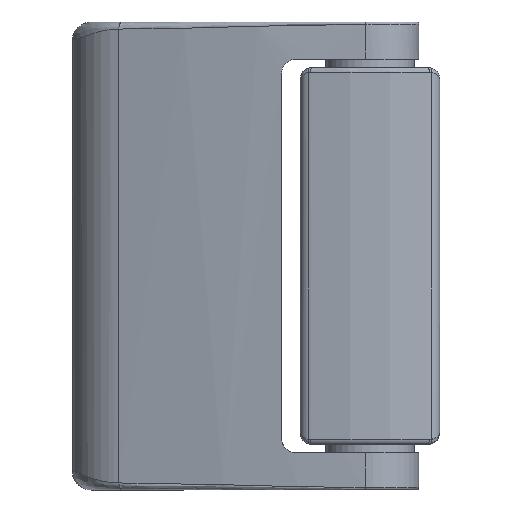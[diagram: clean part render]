
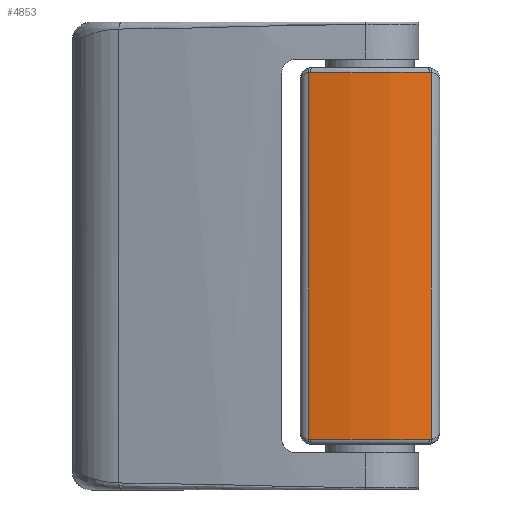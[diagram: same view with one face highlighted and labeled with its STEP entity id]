
A CAD part, top view. The second image highlights one B-rep face of the part: STEP entity #4853.
In plain terms, the highlighted cylindrical face has radius 50 mm (diameter 100 mm), a partial arc.
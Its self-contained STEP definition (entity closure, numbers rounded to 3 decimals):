
#4547=CARTESIAN_POINT('',(12.755,-39.5,20.846));
#4548=VERTEX_POINT('',#4547);
#4556=CARTESIAN_POINT('',(-12.755,-39.5,20.846));
#4557=VERTEX_POINT('',#4556);
#4558=CARTESIAN_POINT('',(0.0,-39.5,-27.5));
#4559=DIRECTION('',(0.0,1.0,0.0));
#4560=DIRECTION('',(0.0,0.0,1.0));
#4561=AXIS2_PLACEMENT_3D('',#4558,#4559,#4560);
#4562=CIRCLE('',#4561,50.0);
#4563=EDGE_CURVE('',#4557,#4548,#4562,.T.);
#4580=CARTESIAN_POINT('',(12.755,39.5,20.846));
#4581=VERTEX_POINT('',#4580);
#4582=CARTESIAN_POINT('',(-12.755,39.5,20.846));
#4583=VERTEX_POINT('',#4582);
#4584=CARTESIAN_POINT('',(0.0,39.5,-27.5));
#4585=DIRECTION('',(0.0,-1.0,0.0));
#4586=DIRECTION('',(0.0,0.0,1.0));
#4587=AXIS2_PLACEMENT_3D('',#4584,#4585,#4586);
#4588=CIRCLE('',#4587,50.0);
#4589=EDGE_CURVE('',#4581,#4583,#4588,.T.);
#4796=CARTESIAN_POINT('',(0.0,40.5,-27.5));
#4797=DIRECTION('',(0.0,-1.0,0.0));
#4798=DIRECTION('',(0.0,0.0,-1.0));
#4799=AXIS2_PLACEMENT_3D('',#4796,#4797,#4798);
#4800=CYLINDRICAL_SURFACE('',#4799,50.);
#4801=ORIENTED_EDGE('',*,*,#4589,.T.);
#4802=CARTESIAN_POINT('',(-13.158,39.447,20.738));
#4803=VERTEX_POINT('',#4802);
#4804=CARTESIAN_POINT('',(-12.755,39.5,20.846));
#4805=CARTESIAN_POINT('',(-12.892,39.5,20.81));
#4806=CARTESIAN_POINT('',(-13.026,39.482,20.774));
#4807=CARTESIAN_POINT('',(-13.158,39.447,20.738));
#4808=B_SPLINE_CURVE_WITH_KNOTS('',3,(#4804,#4805,#4806,#4807),.UNSPECIFIED.,.F.,.U.,(4,4),(0.0,0.),.UNSPECIFIED.);
#4809=EDGE_CURVE('',#4583,#4803,#4808,.T.);
#4810=ORIENTED_EDGE('',*,*,#4809,.T.);
#4811=CARTESIAN_POINT('',(-13.158,-39.447,20.738));
#4812=VERTEX_POINT('',#4811);
#4813=CARTESIAN_POINT('',(-13.158,39.447,20.738));
#4814=DIRECTION('',(0.0,-1.0,0.0));
#4815=VECTOR('',#4814,78.894);
#4816=LINE('',#4813,#4815);
#4817=EDGE_CURVE('',#4803,#4812,#4816,.T.);
#4818=ORIENTED_EDGE('',*,*,#4817,.T.);
#4819=CARTESIAN_POINT('',(-13.158,-39.447,20.738));
#4820=CARTESIAN_POINT('',(-13.026,-39.482,20.774));
#4821=CARTESIAN_POINT('',(-12.892,-39.5,20.81));
#4822=CARTESIAN_POINT('',(-12.755,-39.5,20.846));
#4823=B_SPLINE_CURVE_WITH_KNOTS('',3,(#4819,#4820,#4821,#4822),.UNSPECIFIED.,.F.,.U.,(4,4),(0.,0.),.UNSPECIFIED.);
#4824=EDGE_CURVE('',#4812,#4557,#4823,.T.);
#4825=ORIENTED_EDGE('',*,*,#4824,.T.);
#4826=ORIENTED_EDGE('',*,*,#4563,.T.);
#4827=CARTESIAN_POINT('',(13.158,-39.447,20.738));
#4828=VERTEX_POINT('',#4827);
#4829=CARTESIAN_POINT('',(12.755,-39.5,20.846));
#4830=CARTESIAN_POINT('',(12.892,-39.5,20.81));
#4831=CARTESIAN_POINT('',(13.026,-39.482,20.774));
#4832=CARTESIAN_POINT('',(13.158,-39.447,20.738));
#4833=B_SPLINE_CURVE_WITH_KNOTS('',3,(#4829,#4830,#4831,#4832),.UNSPECIFIED.,.F.,.U.,(4,4),(0.0,0.),.UNSPECIFIED.);
#4834=EDGE_CURVE('',#4548,#4828,#4833,.T.);
#4835=ORIENTED_EDGE('',*,*,#4834,.T.);
#4836=CARTESIAN_POINT('',(13.158,39.447,20.738));
#4837=VERTEX_POINT('',#4836);
#4838=CARTESIAN_POINT('',(13.158,-39.447,20.738));
#4839=DIRECTION('',(0.0,1.0,0.0));
#4840=VECTOR('',#4839,78.894);
#4841=LINE('',#4838,#4840);
#4842=EDGE_CURVE('',#4828,#4837,#4841,.T.);
#4843=ORIENTED_EDGE('',*,*,#4842,.T.);
#4844=CARTESIAN_POINT('',(13.158,39.447,20.738));
#4845=CARTESIAN_POINT('',(13.026,39.482,20.774));
#4846=CARTESIAN_POINT('',(12.892,39.5,20.81));
#4847=CARTESIAN_POINT('',(12.755,39.5,20.846));
#4848=B_SPLINE_CURVE_WITH_KNOTS('',3,(#4844,#4845,#4846,#4847),.UNSPECIFIED.,.F.,.U.,(4,4),(0.,0.),.UNSPECIFIED.);
#4849=EDGE_CURVE('',#4837,#4581,#4848,.T.);
#4850=ORIENTED_EDGE('',*,*,#4849,.T.);
#4851=EDGE_LOOP('',(#4801,#4810,#4818,#4825,#4826,#4835,#4843,#4850));
#4852=FACE_OUTER_BOUND('',#4851,.T.);
#4853=ADVANCED_FACE('',(#4852),#4800,.T.);
